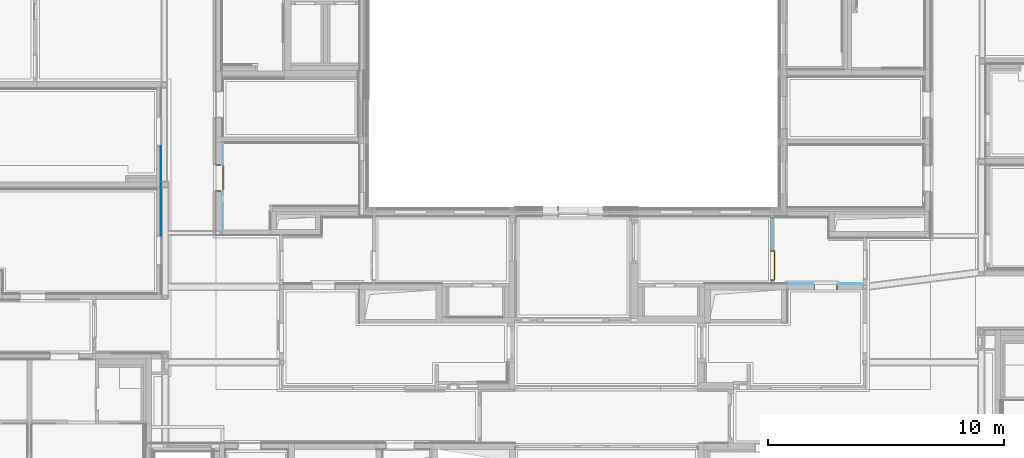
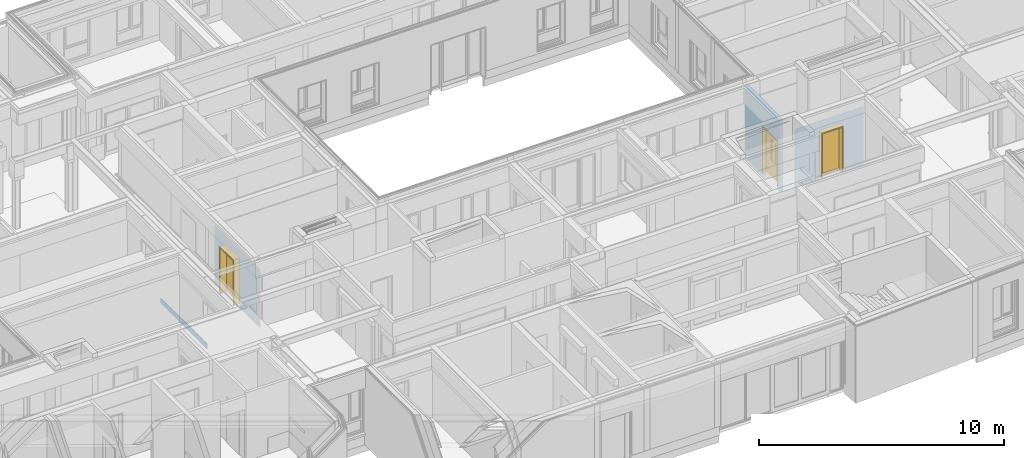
# One storey, part 98 of 207: 3 doors, 1 wall, 3 openings, plus 3 elements that do not belong to this part.
"""IFC4 building model written with IfcOpenShell, lengths in metres."""

from ifc_helpers import new_model, entity, si_unit, converted_unit, derived_unit, frame, frame_2d, origin, origin_with_axes, place, context, subcontext, project, spatial, polyline, rectangle, outline, extrude, closed_shell, open_shell, faceted_brep, surface_model, source, transform, mapped, material, type_object, element, fill, save


model = new_model("IFC4")

# Units and contexts
model_context = context("Model", 3, precision=1e-05, world=origin())
body_context = subcontext(model_context, "Body", "Model", "MODEL_VIEW")
ifc_project = project(units=[si_unit("LENGTHUNIT", "METRE"), si_unit("AREAUNIT", "SQUARE_METRE"), si_unit("VOLUMEUNIT", "CUBIC_METRE"), si_unit("MASSUNIT", "GRAM", prefix="KILO"), converted_unit("PLANEANGLEUNIT", "DEGREE", entity("IfcPlaneAngleMeasure", 0.0174532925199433), si_unit("PLANEANGLEUNIT", "RADIAN"), dimensions=[0, 0, 0, 0, 0, 0, 0]), derived_unit("THERMALTRANSMITTANCEUNIT", [(si_unit("POWERUNIT", "WATT"), 1), (si_unit("THERMODYNAMICTEMPERATUREUNIT", "KELVIN"), -1), (si_unit("LENGTHUNIT", "METRE"), -2)]), derived_unit("VOLUMETRICFLOWRATEUNIT", [(si_unit("LENGTHUNIT", "METRE"), 3), (converted_unit("TIMEUNIT", "hour", entity("IfcTimeMeasure", 3600.0), si_unit("TIMEUNIT", "SECOND"), dimensions=[0, 0, 1, 0, 0, 0, 0]), -1), (si_unit("LENGTHUNIT", "METRE"), -1)])], contexts=[model_context])

# Site, building, storey
site_placement = place(None, origin())
site = spatial("IfcSite", under=ifc_project, at=site_placement, Name="Psychiatrie Neubau Wunstorf", CompositionType="ELEMENT")
building_placement = place(site_placement, origin())
building = spatial("IfcBuilding", under=site, at=building_placement, Name="Neubau H2 Stationsgebäude", CompositionType="ELEMENT")
storey_placement = place(building_placement, frame((0.0, 0.0, -0.2)))
storey = spatial("IfcBuildingStorey", under=building, at=storey_placement, Name="H2 Ebene 0", CompositionType="ELEMENT", Elevation=-0.2)

# Wall, opening, door
ifc_material_1 = material(Name="WI-LB")
wall_1_placement = place(storey_placement, frame((61.35, 10.1139996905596, 0.0), z_axis=(0.0, 0.0, 1.0), x_axis=(0.0, -1.0, 0.0)))
wall_1 = element("IfcWall", 1, at=wall_1_placement, inside=storey, material=ifc_material_1, context=body_context, shape_type="SweptSolid", body=[
    extrude(rectangle(XDim=2.81900000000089, YDim=0.15, at=frame_2d((1.40950000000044, 0.075), x_axis=(1.0, 0.0))), origin_with_axes(), (0.0, 0.0, 1.0), 3.6),
])
opening_1_placement = place(wall_1_placement, frame((2.68900000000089, 0.15, 0.0), z_axis=(0.0, -1.0, 0.0), x_axis=(0.0, 0.0, 1.0)))
opening_1 = element("IfcOpeningElement", 2, at=opening_1_placement, cuts=wall_1, Name="Türöffnung", ObjectType="Opening", context=body_context, shape_type="SweptSolid", body=[
    extrude(outline(polyline([(2.46, 1.26), (2.46, 0.0), (0.0, 0.0), (0.0, 1.26), (2.46, 1.26)])), origin_with_axes(), (0.0, 0.0, 1.0), 0.15),
])
ifc_material_2 = material(Name="TI-1F-UZ-D")
door_type_1 = type_object("IfcDoorType", Name="SMT", OperationType="SINGLE_SWING_RIGHT", ParameterTakesPrecedence=False, PredefinedType="DOOR")
shared_shape_1 = source(origin_with_axes(), body_context, "Body", "Brep", [
    faceted_brep([(-0.124999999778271, 0.124999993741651, 0.0), (-0.124999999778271, 0.0250000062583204, 0.0), (-0.0249999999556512, 0.0250000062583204, 0.0), (-0.0249999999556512, 0.124999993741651, 0.0), (-0.124999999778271, 0.0250000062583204, 3.6), (-0.124999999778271, 0.124999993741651, 3.6), (-0.0249999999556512, 0.124999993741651, 3.6), (-0.0249999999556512, 0.0250000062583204, 3.6)], [[[0, 1, 2, 3]], [[4, 5, 6, 7]], [[1, 0, 5, 4]], [[2, 1, 4, 7]], [[3, 2, 7, 6]], [[0, 3, 6, 5]]], orient=[[False], [False], [False], [False], [False], [False]]),
    faceted_brep([(1.28499999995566, 0.124999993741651, 0.0), (1.28499999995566, 0.0250000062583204, 0.0), (1.38499999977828, 0.0250000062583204, 0.0), (1.38499999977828, 0.124999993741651, 0.0), (1.28499999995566, 0.0250000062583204, 3.6), (1.28499999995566, 0.124999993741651, 3.6), (1.38499999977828, 0.124999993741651, 3.6), (1.38499999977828, 0.0250000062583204, 3.6)], [[[0, 1, 2, 3]], [[4, 5, 6, 7]], [[1, 0, 5, 4]], [[2, 1, 4, 7]], [[3, 2, 7, 6]], [[0, 3, 6, 5]]], orient=[[False], [False], [False], [False], [False], [False]]),
    faceted_brep([(-0.0249999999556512, 0.124999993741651, 2.485), (-0.0249999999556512, 0.0250000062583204, 2.485), (1.28499999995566, 0.0250000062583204, 2.485), (1.28499999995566, 0.124999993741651, 2.485), (-0.0249999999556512, 0.0250000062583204, 2.585), (-0.0249999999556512, 0.124999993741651, 2.585), (1.28499999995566, 0.124999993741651, 2.585), (1.28499999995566, 0.0250000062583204, 2.585)], [[[0, 1, 2, 3]], [[4, 5, 6, 7]], [[1, 0, 5, 4]], [[2, 1, 4, 7]], [[3, 2, 7, 6]], [[0, 3, 6, 5]]], orient=[[False], [False], [False], [False], [False], [False]]),
])
shared_shape_2 = source(origin_with_axes(), body_context, "Body", "SurfaceModel", [
    surface_model("IfcShellBasedSurfaceModel", [(1.26, -0.0150000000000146, 2.46), (1.26, -0.0150000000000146, 0.2), (1.22, -0.0150000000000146, 0.2), (1.22, -0.0150000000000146, 2.46), (1.26, 0.164999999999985, 0.2), (1.26, 0.164999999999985, 2.46), (1.22, 0.164999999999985, 2.46), (1.22, 0.164999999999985, 0.2)], [closed_shell([[[0, 1, 2, 3]], [[4, 5, 6, 7]], [[1, 0, 5, 4]], [[2, 1, 4, 7]], [[3, 2, 7, 6]], [[0, 3, 6, 5]]], orient=[[False], [False], [False], [False], [False], [False]])]),
    surface_model("IfcShellBasedSurfaceModel", [(1.26, -0.0150000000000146, 2.475), (1.275, -0.0150000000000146, 2.475), (1.275, -0.0150000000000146, 0.2), (1.26, -0.0150000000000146, 0.2), (1.26, 0.0, 0.2), (1.275, 0.0, 0.2), (1.275, 0.0, 2.475), (1.26, 0.0, 2.475)], [closed_shell([[[0, 1, 2, 3]], [[4, 5, 6, 7]], [[3, 4, 7, 0]], [[2, 5, 4, 3]], [[1, 6, 5, 2]], [[0, 7, 6, 1]]], orient=[[False], [False], [False], [False], [False], [False]])]),
    surface_model("IfcShellBasedSurfaceModel", [(1.26, 0.149999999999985, 2.475), (1.275, 0.149999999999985, 2.475), (1.275, 0.149999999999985, 0.2), (1.26, 0.149999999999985, 0.2), (1.26, 0.164999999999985, 0.2), (1.275, 0.164999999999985, 0.2), (1.275, 0.164999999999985, 2.475), (1.26, 0.164999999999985, 2.475)], [closed_shell([[[0, 1, 2, 3]], [[4, 5, 6, 7]], [[3, 4, 7, 0]], [[2, 5, 4, 3]], [[1, 6, 5, 2]], [[0, 7, 6, 1]]], orient=[[False], [False], [False], [False], [False], [False]])]),
    surface_model("IfcShellBasedSurfaceModel", [(0.0400000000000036, -0.0150000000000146, 2.46), (0.0400000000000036, -0.0150000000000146, 0.2), (0.0, -0.0150000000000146, 0.2), (0.0, -0.0150000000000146, 2.46), (0.0400000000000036, 0.164999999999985, 0.2), (0.0400000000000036, 0.164999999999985, 2.46), (0.0, 0.164999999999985, 2.46), (0.0, 0.164999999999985, 0.2)], [closed_shell([[[0, 1, 2, 3]], [[4, 5, 6, 7]], [[1, 0, 5, 4]], [[2, 1, 4, 7]], [[3, 2, 7, 6]], [[0, 3, 6, 5]]], orient=[[False], [False], [False], [False], [False], [False]])]),
    surface_model("IfcShellBasedSurfaceModel", [(0.0, -0.0150000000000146, 2.475), (0.0, -0.0150000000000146, 0.2), (-0.0149999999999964, -0.0150000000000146, 0.2), (-0.0149999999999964, -0.0150000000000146, 2.475), (0.0, 0.0, 0.2), (0.0, 0.0, 2.475), (-0.0149999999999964, 0.0, 2.475), (-0.0149999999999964, 0.0, 0.2)], [closed_shell([[[0, 1, 2, 3]], [[4, 5, 6, 7]], [[1, 0, 5, 4]], [[2, 1, 4, 7]], [[3, 2, 7, 6]], [[0, 3, 6, 5]]], orient=[[False], [False], [False], [False], [False], [False]])]),
    surface_model("IfcShellBasedSurfaceModel", [(0.0, 0.149999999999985, 2.475), (0.0, 0.149999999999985, 0.2), (-0.0149999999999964, 0.149999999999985, 0.2), (-0.0149999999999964, 0.149999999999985, 2.475), (0.0, 0.164999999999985, 0.2), (0.0, 0.164999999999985, 2.475), (-0.0149999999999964, 0.164999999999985, 2.475), (-0.0149999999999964, 0.164999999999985, 0.2)], [closed_shell([[[0, 1, 2, 3]], [[4, 5, 6, 7]], [[1, 0, 5, 4]], [[2, 1, 4, 7]], [[3, 2, 7, 6]], [[0, 3, 6, 5]]], orient=[[False], [False], [False], [False], [False], [False]])]),
    surface_model("IfcShellBasedSurfaceModel", [(1.22, -0.0150000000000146, 2.46), (1.22, -0.0150000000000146, 2.42), (0.0400000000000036, -0.0150000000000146, 2.42), (0.0400000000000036, -0.0150000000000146, 2.46), (1.22, 0.164999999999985, 2.42), (1.22, 0.164999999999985, 2.46), (0.0400000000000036, 0.164999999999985, 2.46), (0.0400000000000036, 0.164999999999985, 2.42)], [closed_shell([[[0, 1, 2, 3]], [[4, 5, 6, 7]], [[1, 0, 5, 4]], [[2, 1, 4, 7]], [[3, 2, 7, 6]], [[0, 3, 6, 5]]], orient=[[False], [False], [False], [False], [False], [False]])]),
    surface_model("IfcShellBasedSurfaceModel", [(1.26, -0.0150000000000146, 2.475), (1.26, -0.0150000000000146, 2.46), (0.0, -0.0150000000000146, 2.46), (0.0, -0.0150000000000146, 2.475), (1.26, 0.0, 2.46), (1.26, 0.0, 2.475), (0.0, 0.0, 2.475), (0.0, 0.0, 2.46)], [closed_shell([[[0, 1, 2, 3]], [[4, 5, 6, 7]], [[1, 0, 5, 4]], [[2, 1, 4, 7]], [[3, 2, 7, 6]], [[0, 3, 6, 5]]], orient=[[False], [False], [False], [False], [False], [False]])]),
    surface_model("IfcShellBasedSurfaceModel", [(1.26, 0.149999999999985, 2.475), (1.26, 0.149999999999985, 2.46), (0.0, 0.149999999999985, 2.46), (0.0, 0.149999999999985, 2.475), (1.26, 0.164999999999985, 2.46), (1.26, 0.164999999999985, 2.475), (0.0, 0.164999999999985, 2.475), (0.0, 0.164999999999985, 2.46)], [closed_shell([[[0, 1, 2, 3]], [[4, 5, 6, 7]], [[1, 0, 5, 4]], [[2, 1, 4, 7]], [[3, 2, 7, 6]], [[0, 3, 6, 5]]], orient=[[False], [False], [False], [False], [False], [False]])]),
    surface_model("IfcShellBasedSurfaceModel", [(1.24, 0.144999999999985, 2.44), (1.24, 0.144999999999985, 0.18), (0.805000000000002, 0.144999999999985, 0.18), (0.805000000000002, 0.144999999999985, 2.44), (1.24, 0.194999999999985, 0.18), (1.24, 0.194999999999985, 2.44), (0.805000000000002, 0.194999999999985, 2.44), (0.805000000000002, 0.194999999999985, 0.18)], [closed_shell([[[0, 1, 2, 3]], [[4, 5, 6, 7]], [[1, 0, 5, 4]], [[2, 1, 4, 7]], [[3, 2, 7, 6]], [[0, 3, 6, 5]]], orient=[[False], [False], [False], [False], [False], [False]])]),
    surface_model("IfcShellBasedSurfaceModel", [(0.455000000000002, 0.144999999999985, 2.44), (0.455000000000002, 0.144999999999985, 0.18), (0.0200000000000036, 0.144999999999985, 0.18), (0.0200000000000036, 0.144999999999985, 2.44), (0.455000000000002, 0.194999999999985, 0.18), (0.455000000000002, 0.194999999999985, 2.44), (0.0200000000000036, 0.194999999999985, 2.44), (0.0200000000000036, 0.194999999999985, 0.18)], [closed_shell([[[0, 1, 2, 3]], [[4, 5, 6, 7]], [[1, 0, 5, 4]], [[2, 1, 4, 7]], [[3, 2, 7, 6]], [[0, 3, 6, 5]]], orient=[[False], [False], [False], [False], [False], [False]])]),
    surface_model("IfcShellBasedSurfaceModel", [(0.805000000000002, 0.144999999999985, 0.98), (0.805000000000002, 0.144999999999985, 0.18), (0.455000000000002, 0.144999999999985, 0.18), (0.455000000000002, 0.144999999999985, 0.98), (0.805000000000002, 0.194999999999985, 0.18), (0.805000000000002, 0.194999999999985, 0.98), (0.455000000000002, 0.194999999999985, 0.98), (0.455000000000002, 0.194999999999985, 0.18)], [closed_shell([[[0, 1, 2, 3]], [[4, 5, 6, 7]], [[1, 0, 5, 4]], [[2, 1, 4, 7]], [[3, 2, 7, 6]], [[0, 3, 6, 5]]], orient=[[False], [False], [False], [False], [False], [False]])]),
    surface_model("IfcShellBasedSurfaceModel", [(0.805000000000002, 0.144999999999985, 2.44), (0.805000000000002, 0.144999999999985, 2.005), (0.455000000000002, 0.144999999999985, 2.005), (0.455000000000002, 0.144999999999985, 2.44), (0.805000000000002, 0.194999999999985, 2.005), (0.805000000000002, 0.194999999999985, 2.44), (0.455000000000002, 0.194999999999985, 2.44), (0.455000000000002, 0.194999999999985, 2.005)], [closed_shell([[[0, 1, 2, 3]], [[4, 5, 6, 7]], [[1, 0, 5, 4]], [[2, 1, 4, 7]], [[3, 2, 7, 6]], [[0, 3, 6, 5]]], orient=[[False], [False], [False], [False], [False], [False]])]),
    surface_model("IfcShellBasedSurfaceModel", [(0.805000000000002, 0.169999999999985, 0.98), (0.455000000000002, 0.169999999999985, 0.98), (0.455000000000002, 0.169999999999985, 2.005), (0.805000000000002, 0.169999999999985, 2.005)], [open_shell([[[0, 1, 2, 3]]], orient=[[False]])]),
])
door_1_placement = place(opening_1_placement, frame((0.0, 1.26, 0.15), z_axis=(1.0, 0.0, 0.0), x_axis=(0.0, -1.0, 0.0)))
door_1 = element("IfcDoor", 3, at=door_1_placement, inside=storey, type_object=door_type_1, material=ifc_material_2, Name="SMT", OverallHeight=2.46, OverallWidth=1.26, context=body_context, shape_type="MappedRepresentation", body=[
    mapped(shared_shape_1, transform((0.0, 0.0, 0.0), x_axis=(1.0, 0.0, 0.0), y_axis=(0.0, 1.0, 0.0), z_axis=(0.0, 0.0, 1.0), scale=1.0)),
    mapped(shared_shape_2, transform((0.0, 0.0, 0.0), x_axis=(1.0, 0.0, 0.0), y_axis=(0.0, 1.0, 0.0), z_axis=(0.0, 0.0, 1.0), scale=1.0)),
])
fill(opening_1, door_1)

ifc_material_3 = material(Name="WI-IW")
wall_2_placement = place(storey_placement, frame((65.2749963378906, 7.29499969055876, 0.0), z_axis=(0.0, 0.0, 1.0), x_axis=(-1.0, 0.0, 0.0)))
wall_2 = element("IfcWall", 4, at=wall_2_placement, inside=storey, material=ifc_material_3, context=body_context, shape_type="SweptSolid", body=[
    extrude(rectangle(XDim=3.22499633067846, YDim=0.04, at=frame_2d((1.61249816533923, 0.02), x_axis=(1.0, 0.0))), origin_with_axes(), (0.0, 0.0, 1.0), 2.9),
])
opening_2_placement = place(wall_2_placement, frame((1.08999633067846, 0.0, 0.0), z_axis=(0.0, 1.0, 0.0), x_axis=(0.0, 0.0, 1.0)))
opening_2 = element("IfcOpeningElement", 5, at=opening_2_placement, cuts=wall_2, Name="Türöffnung", ObjectType="Opening", context=body_context, shape_type="SweptSolid", body=[
    extrude(outline(polyline([(2.46, 1.01), (2.46, 0.0), (0.0, 0.0), (0.0, 1.01), (2.46, 1.01)])), origin_with_axes(), (0.0, 0.0, 1.0), 0.04),
])
ifc_material_4 = material(Name="TI-1F-UZ-ZK")
door_type_2 = type_object("IfcDoorType", Name="SMT", OperationType="SLIDING_TO_RIGHT", ParameterTakesPrecedence=False, PredefinedType="DOOR")
shared_shape_3 = source(origin_with_axes(), body_context, "Body", "Brep", [
    faceted_brep([(0.0, -0.015, 2.46), (0.04, -0.015, 2.46), (0.04, -0.015, 0.2), (0.0, -0.015, 0.2), (0.0, 0.287, 0.2), (0.04, 0.287, 0.2), (0.04, 0.287, 2.46), (0.0, 0.287, 2.46)], [[[0, 1, 2, 3]], [[4, 5, 6, 7]], [[3, 4, 7, 0]], [[2, 5, 4, 3]], [[1, 6, 5, 2]], [[0, 7, 6, 1]]], orient=[[False], [False], [False], [False], [False], [False]]),
    faceted_brep([(0.0, -0.015, 2.475), (0.0, -0.015, 0.2), (-0.015, -0.015, 0.2), (-0.015, -0.015, 2.475), (0.0, 0.0, 0.2), (0.0, 0.0, 2.475), (-0.015, 0.0, 2.475), (-0.015, 0.0, 0.2)], [[[0, 1, 2, 3]], [[4, 5, 6, 7]], [[1, 0, 5, 4]], [[2, 1, 4, 7]], [[3, 2, 7, 6]], [[0, 3, 6, 5]]], orient=[[False], [False], [False], [False], [False], [False]]),
    faceted_brep([(0.0, 0.272, 2.475), (0.0, 0.272, 0.2), (-0.015, 0.272, 0.2), (-0.015, 0.272, 2.475), (0.0, 0.287, 0.2), (0.0, 0.287, 2.475), (-0.015, 0.287, 2.475), (-0.015, 0.287, 0.2)], [[[0, 1, 2, 3]], [[4, 5, 6, 7]], [[1, 0, 5, 4]], [[2, 1, 4, 7]], [[3, 2, 7, 6]], [[0, 3, 6, 5]]], orient=[[False], [False], [False], [False], [False], [False]]),
    faceted_brep([(0.97, -0.0150000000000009, 2.46), (1.01, -0.0150000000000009, 2.46), (1.01, -0.015, 0.2), (0.97, -0.015, 0.2), (0.97, 0.287, 0.2), (1.01, 0.287, 0.2), (1.01, 0.286999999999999, 2.46), (0.97, 0.286999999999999, 2.46)], [[[0, 1, 2, 3]], [[4, 5, 6, 7]], [[3, 4, 7, 0]], [[2, 5, 4, 3]], [[1, 6, 5, 2]], [[0, 7, 6, 1]]], orient=[[False], [False], [False], [False], [False], [False]]),
    faceted_brep([(1.01, -0.0150000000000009, 2.475), (1.025, -0.0150000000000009, 2.475), (1.025, -0.015, 0.2), (1.01, -0.015, 0.2), (1.01, 0.0, 0.2), (1.025, 0.0, 0.2), (1.025, 0.0, 2.475), (1.01, 0.0, 2.475)], [[[0, 1, 2, 3]], [[4, 5, 6, 7]], [[3, 4, 7, 0]], [[2, 5, 4, 3]], [[1, 6, 5, 2]], [[0, 7, 6, 1]]], orient=[[False], [False], [False], [False], [False], [False]]),
    faceted_brep([(1.01, 0.271999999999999, 2.475), (1.025, 0.271999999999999, 2.475), (1.025, 0.272, 0.2), (1.01, 0.272, 0.2), (1.01, 0.287, 0.2), (1.025, 0.287, 0.2), (1.025, 0.286999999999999, 2.475), (1.01, 0.286999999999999, 2.475)], [[[0, 1, 2, 3]], [[4, 5, 6, 7]], [[3, 4, 7, 0]], [[2, 5, 4, 3]], [[1, 6, 5, 2]], [[0, 7, 6, 1]]], orient=[[False], [False], [False], [False], [False], [False]]),
    faceted_brep([(0.04, -0.015, 2.46), (0.97, -0.0150000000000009, 2.46), (0.97, -0.0150000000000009, 2.42), (0.04, -0.015, 2.42), (0.04, 0.287, 2.42), (0.97, 0.286999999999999, 2.42), (0.97, 0.286999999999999, 2.46), (0.04, 0.287, 2.46)], [[[0, 1, 2, 3]], [[4, 5, 6, 7]], [[3, 4, 7, 0]], [[2, 5, 4, 3]], [[1, 6, 5, 2]], [[0, 7, 6, 1]]], orient=[[False], [False], [False], [False], [False], [False]]),
    faceted_brep([(0.0, -0.015, 2.475), (1.01, -0.0150000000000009, 2.475), (1.01, -0.0150000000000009, 2.46), (0.0, -0.015, 2.46), (0.0, 0.0, 2.46), (1.01, 0.0, 2.46), (1.01, 0.0, 2.475), (0.0, 0.0, 2.475)], [[[0, 1, 2, 3]], [[4, 5, 6, 7]], [[3, 4, 7, 0]], [[2, 5, 4, 3]], [[1, 6, 5, 2]], [[0, 7, 6, 1]]], orient=[[False], [False], [False], [False], [False], [False]]),
    faceted_brep([(0.0, 0.272, 2.475), (1.01, 0.271999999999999, 2.475), (1.01, 0.271999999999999, 2.46), (0.0, 0.272, 2.46), (0.0, 0.287, 2.46), (1.01, 0.286999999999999, 2.46), (1.01, 0.286999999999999, 2.475), (0.0, 0.287, 2.475)], [[[0, 1, 2, 3]], [[4, 5, 6, 7]], [[3, 4, 7, 0]], [[2, 5, 4, 3]], [[1, 6, 5, 2]], [[0, 7, 6, 1]]], orient=[[False], [False], [False], [False], [False], [False]]),
    faceted_brep([(0.025, -0.085, 2.435), (0.985, -0.0850000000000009, 2.435), (0.985, -0.085, 0.2), (0.025, -0.085, 0.2), (0.025, -0.035, 0.2), (0.985, -0.035, 0.2), (0.985, -0.0350000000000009, 2.435), (0.025, -0.035, 2.435)], [[[0, 1, 2, 3]], [[4, 5, 6, 7]], [[3, 4, 7, 0]], [[2, 5, 4, 3]], [[1, 6, 5, 2]], [[0, 7, 6, 1]]], orient=[[False], [False], [False], [False], [False], [False]]),
])
door_2_placement = place(opening_2_placement, frame((0.0, 0.0, 0.0), z_axis=(1.0, 0.0, 0.0), x_axis=(0.0, 1.0, 0.0)))
door_2 = element("IfcDoor", 6, at=door_2_placement, inside=storey, type_object=door_type_2, material=ifc_material_4, Name="SMT", OverallHeight=2.46, OverallWidth=1.01, context=body_context, shape_type="MappedRepresentation", body=[
    mapped(shared_shape_3, transform((0.0, 0.0, 0.0), x_axis=(1.0, 0.0, 0.0), y_axis=(0.0, 1.0, 0.0), z_axis=(0.0, 0.0, 1.0), scale=1.0)),
])
fill(opening_2, door_2)

# Wall
wall_3_placement = place(storey_placement, frame((35.545, 9.30950090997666, 0.0)))
element("IfcWall", 7, at=wall_3_placement, inside=storey, Name="WV 1.1", context=body_context, shape_type="Brep", body=[
    faceted_brep([(0.025, 3.79, 0.0), (0.0, 3.79, 0.0), (0.0, 0.0, 0.0), (0.025, 0.0, 0.0), (0.0, 3.79, 0.25), (0.025, 3.79, 0.25), (0.025, 0.0, 0.25), (0.0, 0.0, 0.25)], [[[0, 1, 2, 3]], [[4, 5, 6, 7]], [[1, 0, 5, 4]], [[2, 1, 4, 7]], [[3, 2, 7, 6]], [[0, 3, 6, 5]]], orient=[[False], [False], [False], [False], [False], [False]]),
])

# Wall, opening, door
ifc_material_5 = material(Name="WI-LB")
wall_4_placement = place(storey_placement, frame((38.204, 9.55599624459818, 0.0), z_axis=(0.0, 0.0, 1.0), x_axis=(0.0, 1.0, 0.0)))
wall_4 = element("IfcWall", 8, at=wall_4_placement, inside=storey, material=ifc_material_5, context=body_context, shape_type="SweptSolid", body=[
    extrude(rectangle(XDim=3.66200038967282, YDim=0.0395, at=frame_2d((1.83100019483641, 0.01975), x_axis=(1.0, 0.0))), origin_with_axes(), (0.0, 0.0, 1.0), 2.9),
])
opening_3_placement = place(wall_4_placement, frame((2.76900344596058, 0.0395, 0.0), z_axis=(0.0, -1.0, 0.0), x_axis=(0.0, 0.0, 1.0)))
opening_3 = element("IfcOpeningElement", 9, at=opening_3_placement, cuts=wall_4, Name="Türöffnung", ObjectType="Opening", context=body_context, shape_type="SweptSolid", body=[
    extrude(outline(polyline([(2.46, 1.135), (2.46, 0.0), (0.0, 0.0), (0.0, 1.135), (2.46, 1.135)])), origin_with_axes(), (0.0, 0.0, 1.0), 0.0395),
])
ifc_material_6 = material(Name="TI-1F-UZ-ZK")
door_type_3 = type_object("IfcDoorType", Name="SMT", OperationType="SINGLE_SWING_RIGHT", ParameterTakesPrecedence=False, PredefinedType="DOOR")
shared_shape_4 = source(origin_with_axes(), body_context, "Body", "Brep", [
    faceted_brep([(0.0, -0.0150000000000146, 2.46), (0.0400000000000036, -0.0150000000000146, 2.46), (0.0400000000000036, -0.0150000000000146, 0.2), (0.0, -0.0150000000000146, 0.2), (0.0, 0.336499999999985, 0.2), (0.0400000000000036, 0.336499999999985, 0.2), (0.0400000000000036, 0.336499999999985, 2.46), (0.0, 0.336499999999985, 2.46)], [[[0, 1, 2, 3]], [[4, 5, 6, 7]], [[3, 4, 7, 0]], [[2, 5, 4, 3]], [[1, 6, 5, 2]], [[0, 7, 6, 1]]], orient=[[False], [False], [False], [False], [False], [False]]),
    faceted_brep([(0.0, -0.0150000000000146, 2.475), (0.0, -0.0150000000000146, 0.2), (-0.0149999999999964, -0.0150000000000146, 0.2), (-0.0149999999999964, -0.0150000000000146, 2.475), (0.0, 0.0, 0.2), (0.0, 0.0, 2.475), (-0.0149999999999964, 0.0, 2.475), (-0.0149999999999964, 0.0, 0.2)], [[[0, 1, 2, 3]], [[4, 5, 6, 7]], [[1, 0, 5, 4]], [[2, 1, 4, 7]], [[3, 2, 7, 6]], [[0, 3, 6, 5]]], orient=[[False], [False], [False], [False], [False], [False]]),
    faceted_brep([(0.0, 0.321499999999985, 2.475), (0.0, 0.321499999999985, 0.2), (-0.0149999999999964, 0.321499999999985, 0.2), (-0.0149999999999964, 0.321499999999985, 2.475), (0.0, 0.336499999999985, 0.2), (0.0, 0.336499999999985, 2.475), (-0.0149999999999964, 0.336499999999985, 2.475), (-0.0149999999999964, 0.336499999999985, 0.2)], [[[0, 1, 2, 3]], [[4, 5, 6, 7]], [[1, 0, 5, 4]], [[2, 1, 4, 7]], [[3, 2, 7, 6]], [[0, 3, 6, 5]]], orient=[[False], [False], [False], [False], [False], [False]]),
    faceted_brep([(1.095, -0.0150000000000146, 2.46), (1.135, -0.0150000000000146, 2.46), (1.135, -0.0150000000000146, 0.2), (1.095, -0.0150000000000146, 0.2), (1.095, 0.336499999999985, 0.2), (1.135, 0.336499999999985, 0.2), (1.135, 0.336499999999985, 2.46), (1.095, 0.336499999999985, 2.46)], [[[0, 1, 2, 3]], [[4, 5, 6, 7]], [[3, 4, 7, 0]], [[2, 5, 4, 3]], [[1, 6, 5, 2]], [[0, 7, 6, 1]]], orient=[[False], [False], [False], [False], [False], [False]]),
    faceted_brep([(1.135, -0.0150000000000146, 2.475), (1.15, -0.0150000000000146, 2.475), (1.15, -0.0150000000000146, 0.2), (1.135, -0.0150000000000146, 0.2), (1.135, 0.0, 0.2), (1.15, 0.0, 0.2), (1.15, 0.0, 2.475), (1.135, 0.0, 2.475)], [[[0, 1, 2, 3]], [[4, 5, 6, 7]], [[3, 4, 7, 0]], [[2, 5, 4, 3]], [[1, 6, 5, 2]], [[0, 7, 6, 1]]], orient=[[False], [False], [False], [False], [False], [False]]),
    faceted_brep([(1.135, 0.321499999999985, 2.475), (1.15, 0.321499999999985, 2.475), (1.15, 0.321499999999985, 0.2), (1.135, 0.321499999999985, 0.2), (1.135, 0.336499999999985, 0.2), (1.15, 0.336499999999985, 0.2), (1.15, 0.336499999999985, 2.475), (1.135, 0.336499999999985, 2.475)], [[[0, 1, 2, 3]], [[4, 5, 6, 7]], [[3, 4, 7, 0]], [[2, 5, 4, 3]], [[1, 6, 5, 2]], [[0, 7, 6, 1]]], orient=[[False], [False], [False], [False], [False], [False]]),
    faceted_brep([(0.0400000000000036, -0.0150000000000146, 2.46), (1.095, -0.0150000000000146, 2.46), (1.095, -0.0150000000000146, 2.42), (0.0400000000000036, -0.0150000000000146, 2.42), (0.0400000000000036, 0.336499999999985, 2.42), (1.095, 0.336499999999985, 2.42), (1.095, 0.336499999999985, 2.46), (0.0400000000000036, 0.336499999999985, 2.46)], [[[0, 1, 2, 3]], [[4, 5, 6, 7]], [[3, 4, 7, 0]], [[2, 5, 4, 3]], [[1, 6, 5, 2]], [[0, 7, 6, 1]]], orient=[[False], [False], [False], [False], [False], [False]]),
    faceted_brep([(0.0, -0.0150000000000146, 2.475), (1.135, -0.0150000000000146, 2.475), (1.135, -0.0150000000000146, 2.46), (0.0, -0.0150000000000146, 2.46), (0.0, 0.0, 2.46), (1.135, 0.0, 2.46), (1.135, 0.0, 2.475), (0.0, 0.0, 2.475)], [[[0, 1, 2, 3]], [[4, 5, 6, 7]], [[3, 4, 7, 0]], [[2, 5, 4, 3]], [[1, 6, 5, 2]], [[0, 7, 6, 1]]], orient=[[False], [False], [False], [False], [False], [False]]),
    faceted_brep([(0.0, 0.321499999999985, 2.475), (1.135, 0.321499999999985, 2.475), (1.135, 0.321499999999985, 2.46), (0.0, 0.321499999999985, 2.46), (0.0, 0.336499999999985, 2.46), (1.135, 0.336499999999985, 2.46), (1.135, 0.336499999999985, 2.475), (0.0, 0.336499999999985, 2.475)], [[[0, 1, 2, 3]], [[4, 5, 6, 7]], [[3, 4, 7, 0]], [[2, 5, 4, 3]], [[1, 6, 5, 2]], [[0, 7, 6, 1]]], orient=[[False], [False], [False], [False], [False], [False]]),
    faceted_brep([(0.0250000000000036, 0.287499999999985, 2.435), (1.11, 0.287499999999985, 2.435), (1.11, 0.287499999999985, 0.2), (0.0250000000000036, 0.287499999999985, 0.2), (0.0250000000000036, 0.337499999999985, 0.2), (1.11, 0.337499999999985, 0.2), (1.11, 0.337499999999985, 2.435), (0.0250000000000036, 0.337499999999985, 2.435)], [[[0, 1, 2, 3]], [[4, 5, 6, 7]], [[3, 4, 7, 0]], [[2, 5, 4, 3]], [[1, 6, 5, 2]], [[0, 7, 6, 1]]], orient=[[False], [False], [False], [False], [False], [False]]),
])
door_3_placement = place(opening_3_placement, frame((0.0, 0.0, -0.282), z_axis=(1.0, 0.0, 0.0), x_axis=(0.0, 1.0, 0.0)))
door_3 = element("IfcDoor", 10, at=door_3_placement, inside=storey, type_object=door_type_3, material=ifc_material_6, Name="SMT", OverallHeight=2.46, OverallWidth=1.135, context=body_context, shape_type="MappedRepresentation", body=[
    mapped(shared_shape_4, transform((0.0, 0.0, 0.0), x_axis=(1.0, 0.0, 0.0), y_axis=(0.0, 1.0, 0.0), z_axis=(0.0, 0.0, 1.0), scale=1.0)),
])
fill(opening_3, door_3)

save(model, "model.ifc")
